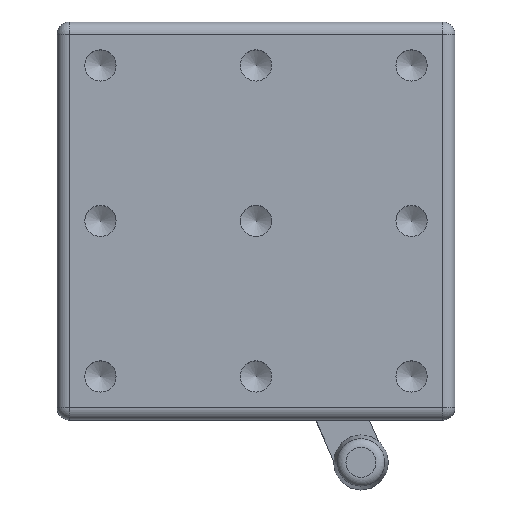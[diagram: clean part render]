
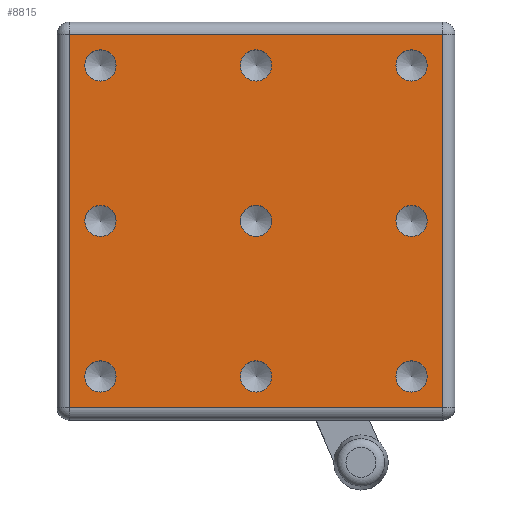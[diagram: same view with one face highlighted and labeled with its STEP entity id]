
A CAD part, top view. The second image highlights one B-rep face of the part: STEP entity #8815.
In plain terms, the highlighted planar face has unit normal (0, 0, 1).
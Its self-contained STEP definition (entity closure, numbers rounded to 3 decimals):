
#120=CIRCLE('',#9274,2.55);
#121=CIRCLE('',#9275,2.55);
#122=CIRCLE('',#9276,2.55);
#123=CIRCLE('',#9277,2.55);
#124=CIRCLE('',#9278,2.55);
#125=CIRCLE('',#9279,2.55);
#126=CIRCLE('',#9280,2.55);
#127=CIRCLE('',#9281,2.55);
#128=CIRCLE('',#9282,2.55);
#257=FACE_BOUND('',#1326,.T.);
#258=FACE_BOUND('',#1327,.T.);
#259=FACE_BOUND('',#1328,.T.);
#260=FACE_BOUND('',#1329,.T.);
#261=FACE_BOUND('',#1330,.T.);
#262=FACE_BOUND('',#1331,.T.);
#263=FACE_BOUND('',#1332,.T.);
#264=FACE_BOUND('',#1333,.T.);
#265=FACE_BOUND('',#1334,.T.);
#803=FACE_OUTER_BOUND('',#1325,.T.);
#1325=EDGE_LOOP('',(#7823,#7824,#7825,#7826));
#1326=EDGE_LOOP('',(#7827));
#1327=EDGE_LOOP('',(#7828));
#1328=EDGE_LOOP('',(#7829));
#1329=EDGE_LOOP('',(#7830));
#1330=EDGE_LOOP('',(#7831));
#1331=EDGE_LOOP('',(#7832));
#1332=EDGE_LOOP('',(#7833));
#1333=EDGE_LOOP('',(#7834));
#1334=EDGE_LOOP('',(#7835));
#2207=LINE('',#16167,#3091);
#2210=LINE('',#16180,#3094);
#2212=LINE('',#16183,#3096);
#2213=LINE('',#16185,#3097);
#3091=VECTOR('',#10908,10.);
#3094=VECTOR('',#10925,10.);
#3096=VECTOR('',#10929,10.);
#3097=VECTOR('',#10932,10.);
#4231=VERTEX_POINT('',#16132);
#4236=VERTEX_POINT('',#16145);
#4239=VERTEX_POINT('',#16155);
#4243=VERTEX_POINT('',#16170);
#4246=VERTEX_POINT('',#16192);
#4247=VERTEX_POINT('',#16194);
#4248=VERTEX_POINT('',#16196);
#4249=VERTEX_POINT('',#16198);
#4250=VERTEX_POINT('',#16200);
#4251=VERTEX_POINT('',#16202);
#4252=VERTEX_POINT('',#16204);
#4253=VERTEX_POINT('',#16206);
#4254=VERTEX_POINT('',#16208);
#5464=EDGE_CURVE('',#4231,#4239,#2207,.T.);
#5471=EDGE_CURVE('',#4239,#4243,#2210,.T.);
#5473=EDGE_CURVE('',#4243,#4236,#2212,.T.);
#5474=EDGE_CURVE('',#4236,#4231,#2213,.T.);
#5478=EDGE_CURVE('',#4246,#4246,#120,.T.);
#5479=EDGE_CURVE('',#4247,#4247,#121,.T.);
#5480=EDGE_CURVE('',#4248,#4248,#122,.T.);
#5481=EDGE_CURVE('',#4249,#4249,#123,.T.);
#5482=EDGE_CURVE('',#4250,#4250,#124,.T.);
#5483=EDGE_CURVE('',#4251,#4251,#125,.T.);
#5484=EDGE_CURVE('',#4252,#4252,#126,.T.);
#5485=EDGE_CURVE('',#4253,#4253,#127,.T.);
#5486=EDGE_CURVE('',#4254,#4254,#128,.T.);
#7823=ORIENTED_EDGE('',*,*,#5464,.F.);
#7824=ORIENTED_EDGE('',*,*,#5474,.F.);
#7825=ORIENTED_EDGE('',*,*,#5473,.F.);
#7826=ORIENTED_EDGE('',*,*,#5471,.F.);
#7827=ORIENTED_EDGE('',*,*,#5478,.T.);
#7828=ORIENTED_EDGE('',*,*,#5479,.T.);
#7829=ORIENTED_EDGE('',*,*,#5480,.T.);
#7830=ORIENTED_EDGE('',*,*,#5481,.T.);
#7831=ORIENTED_EDGE('',*,*,#5482,.T.);
#7832=ORIENTED_EDGE('',*,*,#5483,.T.);
#7833=ORIENTED_EDGE('',*,*,#5484,.T.);
#7834=ORIENTED_EDGE('',*,*,#5485,.T.);
#7835=ORIENTED_EDGE('',*,*,#5486,.T.);
#8374=PLANE('',#9273);
#8815=ADVANCED_FACE('',(#803,#257,#258,#259,#260,#261,#262,#263,#264,#265),
#8374,.T.);
#9273=AXIS2_PLACEMENT_3D('',#16191,#10940,#10941);
#9274=AXIS2_PLACEMENT_3D('',#16193,#10942,#10943);
#9275=AXIS2_PLACEMENT_3D('',#16195,#10944,#10945);
#9276=AXIS2_PLACEMENT_3D('',#16197,#10946,#10947);
#9277=AXIS2_PLACEMENT_3D('',#16199,#10948,#10949);
#9278=AXIS2_PLACEMENT_3D('',#16201,#10950,#10951);
#9279=AXIS2_PLACEMENT_3D('',#16203,#10952,#10953);
#9280=AXIS2_PLACEMENT_3D('',#16205,#10954,#10955);
#9281=AXIS2_PLACEMENT_3D('',#16207,#10956,#10957);
#9282=AXIS2_PLACEMENT_3D('',#16209,#10958,#10959);
#10908=DIRECTION('',(1.,0.,0.));
#10925=DIRECTION('',(0.,-1.,0.));
#10929=DIRECTION('',(-1.,0.,0.));
#10932=DIRECTION('',(0.,1.,0.));
#10940=DIRECTION('center_axis',(0.,0.,1.));
#10941=DIRECTION('ref_axis',(1.,0.,0.));
#10942=DIRECTION('center_axis',(0.,0.,-1.));
#10943=DIRECTION('ref_axis',(1.,0.,0.));
#10944=DIRECTION('center_axis',(0.,0.,-1.));
#10945=DIRECTION('ref_axis',(1.,0.,0.));
#10946=DIRECTION('center_axis',(0.,0.,-1.));
#10947=DIRECTION('ref_axis',(1.,0.,0.));
#10948=DIRECTION('center_axis',(0.,0.,-1.));
#10949=DIRECTION('ref_axis',(1.,0.,0.));
#10950=DIRECTION('center_axis',(0.,0.,-1.));
#10951=DIRECTION('ref_axis',(1.,0.,0.));
#10952=DIRECTION('center_axis',(0.,0.,-1.));
#10953=DIRECTION('ref_axis',(1.,0.,0.));
#10954=DIRECTION('center_axis',(0.,0.,-1.));
#10955=DIRECTION('ref_axis',(1.,0.,0.));
#10956=DIRECTION('center_axis',(0.,0.,-1.));
#10957=DIRECTION('ref_axis',(1.,0.,0.));
#10958=DIRECTION('center_axis',(0.,0.,-1.));
#10959=DIRECTION('ref_axis',(1.,0.,0.));
#16132=CARTESIAN_POINT('',(-30.5,30.5,20.));
#16145=CARTESIAN_POINT('',(-30.5,-30.5,20.));
#16155=CARTESIAN_POINT('',(30.5,30.5,20.));
#16167=CARTESIAN_POINT('',(16.25,30.5,20.));
#16170=CARTESIAN_POINT('',(30.5,-30.5,20.));
#16180=CARTESIAN_POINT('',(30.5,-16.25,20.));
#16183=CARTESIAN_POINT('',(-16.25,-30.5,20.));
#16185=CARTESIAN_POINT('',(-30.5,16.25,20.));
#16191=CARTESIAN_POINT('Origin',(0.,0.,
20.));
#16192=CARTESIAN_POINT('',(-27.95,-25.4,20.));
#16193=CARTESIAN_POINT('Origin',(-25.4,-25.4,20.));
#16194=CARTESIAN_POINT('',(-2.55,-25.4,20.));
#16195=CARTESIAN_POINT('Origin',(0.,-25.4,20.));
#16196=CARTESIAN_POINT('',(22.85,-25.4,20.));
#16197=CARTESIAN_POINT('Origin',(25.4,-25.4,20.));
#16198=CARTESIAN_POINT('',(-27.95,0.,20.));
#16199=CARTESIAN_POINT('Origin',(-25.4,0.,20.));
#16200=CARTESIAN_POINT('',(-2.55,0.,20.));
#16201=CARTESIAN_POINT('Origin',(0.,0.,20.));
#16202=CARTESIAN_POINT('',(22.85,0.,20.));
#16203=CARTESIAN_POINT('Origin',(25.4,0.,20.));
#16204=CARTESIAN_POINT('',(-27.95,25.4,20.));
#16205=CARTESIAN_POINT('Origin',(-25.4,25.4,20.));
#16206=CARTESIAN_POINT('',(-2.55,25.4,20.));
#16207=CARTESIAN_POINT('Origin',(0.,25.4,20.));
#16208=CARTESIAN_POINT('',(22.85,25.4,20.));
#16209=CARTESIAN_POINT('Origin',(25.4,25.4,20.));
